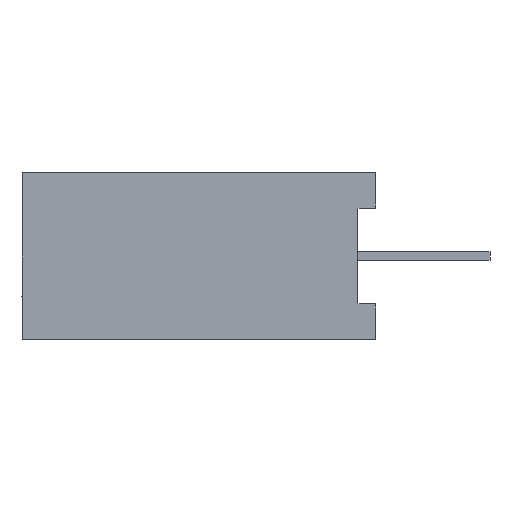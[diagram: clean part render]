
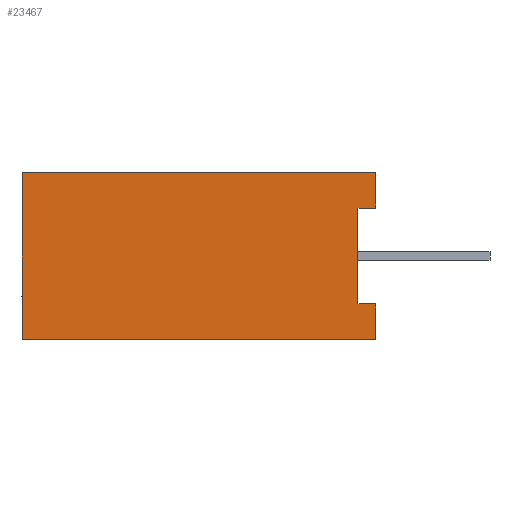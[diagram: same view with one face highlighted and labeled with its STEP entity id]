
A CAD part, left-side view. The second image highlights one B-rep face of the part: STEP entity #23467.
In plain terms, the highlighted planar face has unit normal (-1, 0, 0).
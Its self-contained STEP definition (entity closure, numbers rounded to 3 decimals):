
#606 = VERTEX_POINT ( 'NONE', #12410 ) ;
#12410 = CARTESIAN_POINT ( 'NONE',  ( -9.55, -0.508, -2.4 ) ) ;
#17194 = EDGE_CURVE ( 'NONE', #606, #17201, #42819, .T. ) ;
#17201 = VERTEX_POINT ( 'NONE', #42815 ) ;
#22666 = VERTEX_POINT ( 'NONE', #42898 ) ;
#22699 = EDGE_CURVE ( 'NONE', #22666, #606, #42897, .T. ) ;
#22808 = EDGE_CURVE ( 'NONE', #22874, #22816, #42893, .T. ) ;
#22816 = VERTEX_POINT ( 'NONE', #42889 ) ;
#22851 = EDGE_CURVE ( 'NONE', #22816, #22871, #42888, .T. ) ;
#22871 = VERTEX_POINT ( 'NONE', #42884 ) ;
#22874 = VERTEX_POINT ( 'NONE', #42883 ) ;
#23184 = EDGE_LOOP ( 'NONE', ( #23362, #23345, #41990, #41987, #40929, #40367, #39608, #39380 ) ) ;
#23345 = ORIENTED_EDGE ( 'NONE', *, *, #41992, .F. ) ;
#23362 = ORIENTED_EDGE ( 'NONE', *, *, #17194, .T. ) ;
#23467 = ADVANCED_FACE ( 'NONE', ( #42917 ), #42916, .F. ) ;
#38453 = EDGE_CURVE ( 'NONE', #22871, #22666, #43153, .T. ) ;
#39380 = ORIENTED_EDGE ( 'NONE', *, *, #22699, .T. ) ;
#39608 = ORIENTED_EDGE ( 'NONE', *, *, #38453, .T. ) ;
#40367 = ORIENTED_EDGE ( 'NONE', *, *, #22851, .T. ) ;
#40849 = VERTEX_POINT ( 'NONE', #43223 ) ;
#40929 = ORIENTED_EDGE ( 'NONE', *, *, #22808, .T. ) ;
#41985 = EDGE_CURVE ( 'NONE', #22874, #41989, #43366, .T. ) ;
#41987 = ORIENTED_EDGE ( 'NONE', *, *, #41985, .F. ) ;
#41988 = EDGE_CURVE ( 'NONE', #41989, #40849, #43362, .T. ) ;
#41989 = VERTEX_POINT ( 'NONE', #43358 ) ;
#41990 = ORIENTED_EDGE ( 'NONE', *, *, #41988, .F. ) ;
#41992 = EDGE_CURVE ( 'NONE', #40849, #17201, #43413, .T. ) ;
#42815 = CARTESIAN_POINT ( 'NONE',  ( -9.55, -0.508, -1.384 ) ) ;
#42816 = DIRECTION ( 'NONE',  ( 0., 0., 1. ) ) ;
#42817 = VECTOR ( 'NONE', #42816, 1000. ) ;
#42818 = CARTESIAN_POINT ( 'NONE',  ( -9.55, -0.508, 2.4 ) ) ;
#42819 = LINE ( 'NONE', #42818, #42817 ) ;
#42883 = CARTESIAN_POINT ( 'NONE',  ( -9.55, -0.508, 1.384 ) ) ;
#42884 = CARTESIAN_POINT ( 'NONE',  ( -9.55, 9.692, 2.4 ) ) ;
#42885 = DIRECTION ( 'NONE',  ( 0., 1., 0. ) ) ;
#42886 = VECTOR ( 'NONE', #42885, 1000. ) ;
#42887 = CARTESIAN_POINT ( 'NONE',  ( -9.55, 9.692, 2.4 ) ) ;
#42888 = LINE ( 'NONE', #42887, #42886 ) ;
#42889 = CARTESIAN_POINT ( 'NONE',  ( -9.55, -0.508, 2.4 ) ) ;
#42890 = DIRECTION ( 'NONE',  ( 0., 0., 1. ) ) ;
#42891 = VECTOR ( 'NONE', #42890, 1000. ) ;
#42892 = CARTESIAN_POINT ( 'NONE',  ( -9.55, -0.508, 2.4 ) ) ;
#42893 = LINE ( 'NONE', #42892, #42891 ) ;
#42894 = DIRECTION ( 'NONE',  ( 0., -1., 0. ) ) ;
#42895 = VECTOR ( 'NONE', #42894, 1000. ) ;
#42896 = CARTESIAN_POINT ( 'NONE',  ( -9.55, -0.508, -2.4 ) ) ;
#42897 = LINE ( 'NONE', #42896, #42895 ) ;
#42898 = CARTESIAN_POINT ( 'NONE',  ( -9.55, 9.692, -2.4 ) ) ;
#42912 = DIRECTION ( 'NONE',  ( 0., 0., -1. ) ) ;
#42913 = DIRECTION ( 'NONE',  ( 1., 0., 0. ) ) ;
#42914 = CARTESIAN_POINT ( 'NONE',  ( -9.55, 9.692, -2.4 ) ) ;
#42915 = AXIS2_PLACEMENT_3D ( 'NONE', #42914, #42913, #42912 ) ;
#42916 = PLANE ( 'NONE',  #42915 ) ;
#42917 = FACE_OUTER_BOUND ( 'NONE', #23184, .T. ) ;
#43150 = DIRECTION ( 'NONE',  ( 0., 0., -1. ) ) ;
#43151 = VECTOR ( 'NONE', #43150, 1000. ) ;
#43152 = CARTESIAN_POINT ( 'NONE',  ( -9.55, 9.692, -2.4 ) ) ;
#43153 = LINE ( 'NONE', #43152, #43151 ) ;
#43223 = CARTESIAN_POINT ( 'NONE',  ( -9.55, 0., -1.384 ) ) ;
#43358 = CARTESIAN_POINT ( 'NONE',  ( -9.55, 0., 1.384 ) ) ;
#43359 = DIRECTION ( 'NONE',  ( 0., 0., -1. ) ) ;
#43360 = VECTOR ( 'NONE', #43359, 1000. ) ;
#43361 = CARTESIAN_POINT ( 'NONE',  ( -9.55, 0., -1.384 ) ) ;
#43362 = LINE ( 'NONE', #43361, #43360 ) ;
#43363 = DIRECTION ( 'NONE',  ( 0., 1., 0. ) ) ;
#43364 = VECTOR ( 'NONE', #43363, 1000. ) ;
#43365 = CARTESIAN_POINT ( 'NONE',  ( -9.55, -0.508, 1.384 ) ) ;
#43366 = LINE ( 'NONE', #43365, #43364 ) ;
#43410 = DIRECTION ( 'NONE',  ( 0., -1., 0. ) ) ;
#43411 = VECTOR ( 'NONE', #43410, 1000. ) ;
#43412 = CARTESIAN_POINT ( 'NONE',  ( -9.55, -0.508, -1.384 ) ) ;
#43413 = LINE ( 'NONE', #43412, #43411 ) ;
